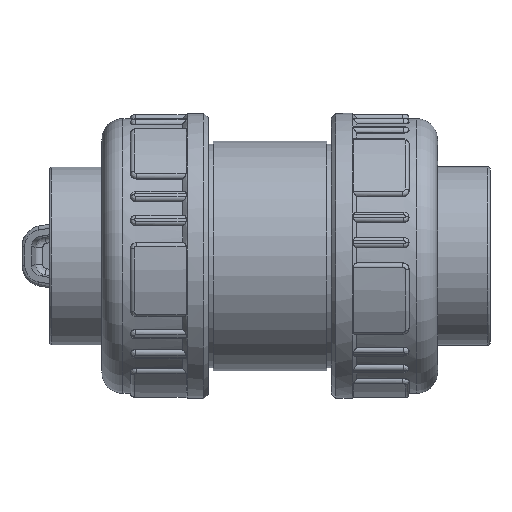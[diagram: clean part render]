
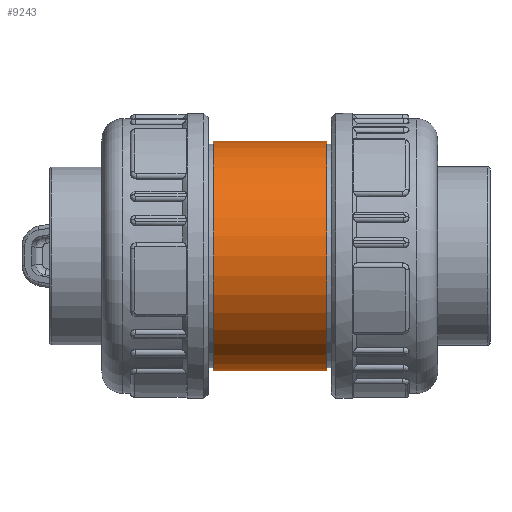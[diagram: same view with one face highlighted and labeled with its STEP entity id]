
A CAD part, left-side view. The second image highlights one B-rep face of the part: STEP entity #9243.
In plain terms, the highlighted cylindrical face has radius 27.35 mm (diameter 54.7 mm), a full revolution.
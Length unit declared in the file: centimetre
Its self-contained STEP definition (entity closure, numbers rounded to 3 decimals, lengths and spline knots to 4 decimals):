
#1569=B_SPLINE_CURVE_WITH_KNOTS('',3,(#66508,#66509,#66510,#66511,#66512,
#66513,#66514,#66515,#66516,#66517,#66518,#66519,#66520,#66521,#66522,#66523,
#66524,#66525,#66526,#66527,#66528,#66529,#66530,#66531,#66532,#66533,#66534,
#66535,#66536,#66537,#66538,#66539,#66540,#66541,#66542,#66543,#66544,#66545,
#66546,#66547,#66548,#66549,#66550,#66551,#66552,#66553,#66554,#66555,#66556,
#66557),.UNSPECIFIED.,.T.,.F.,(4,2,2,2,2,2,2,2,2,2,2,2,2,2,2,2,2,2,2,2,
2,2,2,2,4),(0.,0.2366,0.4732,0.9463,1.4187,
1.6549,1.891,2.1272,2.3634,2.8357,
3.3089,3.5455,3.7821,4.0186,4.2552,
4.7284,5.2007,5.4369,5.6731,5.9093,
6.1454,6.6178,7.0909,7.3275,7.5641),
 .UNSPECIFIED.);
#1791=FACE_BOUND('',#2865,.T.);
#1792=FACE_BOUND('',#2866,.T.);
#2309=FACE_OUTER_BOUND('',#2864,.T.);
#2864=EDGE_LOOP('',(#8031));
#2865=EDGE_LOOP('',(#8032));
#2866=EDGE_LOOP('',(#8033));
#3305=CIRCLE('',#10045,2.735);
#3306=CIRCLE('',#10046,2.735);
#4138=VERTEX_POINT('',#66505);
#4139=VERTEX_POINT('',#66507);
#4140=VERTEX_POINT('',#66558);
#5443=EDGE_CURVE('',#4138,#4138,#3305,.T.);
#5444=EDGE_CURVE('',#4139,#4139,#1569,.T.);
#5445=EDGE_CURVE('',#4140,#4140,#3306,.T.);
#8031=ORIENTED_EDGE('',*,*,#5443,.F.);
#8032=ORIENTED_EDGE('',*,*,#5444,.T.);
#8033=ORIENTED_EDGE('',*,*,#5445,.T.);
#8212=CYLINDRICAL_SURFACE('',#10044,2.735);
#9243=ADVANCED_FACE('',(#2309,#1791,#1792),#8212,.T.);
#10044=AXIS2_PLACEMENT_3D('',#66504,#12143,#12144);
#10045=AXIS2_PLACEMENT_3D('',#66506,#12145,#12146);
#10046=AXIS2_PLACEMENT_3D('',#66559,#12147,#12148);
#12143=DIRECTION('center_axis',(0.,-1.,0.));
#12144=DIRECTION('ref_axis',(-1.,0.,0.));
#12145=DIRECTION('center_axis',(0.,-1.,0.));
#12146=DIRECTION('ref_axis',(1.,0.,0.));
#12147=DIRECTION('center_axis',(0.,-1.,0.));
#12148=DIRECTION('ref_axis',(1.,0.,0.));
#66504=CARTESIAN_POINT('Origin',(0.,-0.005,
0.));
#66505=CARTESIAN_POINT('',(-2.735,-1.36,0.));
#66506=CARTESIAN_POINT('Origin',(0.,-1.36,0.));
#66507=CARTESIAN_POINT('',(2.4403,0.,-1.235));
#66508=CARTESIAN_POINT('Ctrl Pts',(2.4403,0.,
-1.235));
#66509=CARTESIAN_POINT('Ctrl Pts',(2.4403,-0.0789,
-1.235));
#66510=CARTESIAN_POINT('Ctrl Pts',(2.4442,-0.16,
-1.2273));
#66511=CARTESIAN_POINT('Ctrl Pts',(2.4599,-0.3205,
-1.1955));
#66512=CARTESIAN_POINT('Ctrl Pts',(2.4717,-0.3999,
-1.1713));
#66513=CARTESIAN_POINT('Ctrl Pts',(2.5153,-0.6275,
-1.0764));
#66514=CARTESIAN_POINT('Ctrl Pts',(2.5553,-0.7648,
-0.9818));
#66515=CARTESIAN_POINT('Ctrl Pts',(2.6283,-0.9816,
-0.765));
#66516=CARTESIAN_POINT('Ctrl Pts',(2.6665,-1.0763,-0.6276));
#66517=CARTESIAN_POINT('Ctrl Pts',(2.7067,-1.1714,-0.3998));
#66518=CARTESIAN_POINT('Ctrl Pts',(2.7174,-1.1955,-0.3203));
#66519=CARTESIAN_POINT('Ctrl Pts',(2.7315,-1.2274,-0.1598));
#66520=CARTESIAN_POINT('Ctrl Pts',(2.735,-1.235,-0.0787));
#66521=CARTESIAN_POINT('Ctrl Pts',(2.735,-1.235,0.0787));
#66522=CARTESIAN_POINT('Ctrl Pts',(2.7315,-1.2274,0.1598));
#66523=CARTESIAN_POINT('Ctrl Pts',(2.7174,-1.1955,0.3203));
#66524=CARTESIAN_POINT('Ctrl Pts',(2.7067,-1.1714,0.3998));
#66525=CARTESIAN_POINT('Ctrl Pts',(2.6665,-1.0763,0.6276));
#66526=CARTESIAN_POINT('Ctrl Pts',(2.6283,-0.9816,
0.765));
#66527=CARTESIAN_POINT('Ctrl Pts',(2.5553,-0.7648,
0.9818));
#66528=CARTESIAN_POINT('Ctrl Pts',(2.5153,-0.6275,
1.0764));
#66529=CARTESIAN_POINT('Ctrl Pts',(2.4717,-0.3999,
1.1713));
#66530=CARTESIAN_POINT('Ctrl Pts',(2.4599,-0.3205,
1.1955));
#66531=CARTESIAN_POINT('Ctrl Pts',(2.4442,-0.16,
1.2273));
#66532=CARTESIAN_POINT('Ctrl Pts',(2.4403,-0.0789,
1.235));
#66533=CARTESIAN_POINT('Ctrl Pts',(2.4403,0.0789,1.235));
#66534=CARTESIAN_POINT('Ctrl Pts',(2.4442,0.16,1.2273));
#66535=CARTESIAN_POINT('Ctrl Pts',(2.4599,0.3205,1.1955));
#66536=CARTESIAN_POINT('Ctrl Pts',(2.4717,0.3999,1.1713));
#66537=CARTESIAN_POINT('Ctrl Pts',(2.5153,0.6275,1.0764));
#66538=CARTESIAN_POINT('Ctrl Pts',(2.5553,0.7648,0.9818));
#66539=CARTESIAN_POINT('Ctrl Pts',(2.6283,0.9816,0.765));
#66540=CARTESIAN_POINT('Ctrl Pts',(2.6665,1.0763,0.6276));
#66541=CARTESIAN_POINT('Ctrl Pts',(2.7067,1.1714,0.3998));
#66542=CARTESIAN_POINT('Ctrl Pts',(2.7174,1.1955,0.3203));
#66543=CARTESIAN_POINT('Ctrl Pts',(2.7315,1.2274,0.1598));
#66544=CARTESIAN_POINT('Ctrl Pts',(2.735,1.235,0.0787));
#66545=CARTESIAN_POINT('Ctrl Pts',(2.735,1.235,-0.0787));
#66546=CARTESIAN_POINT('Ctrl Pts',(2.7315,1.2274,-0.1598));
#66547=CARTESIAN_POINT('Ctrl Pts',(2.7174,1.1955,-0.3203));
#66548=CARTESIAN_POINT('Ctrl Pts',(2.7067,1.1714,-0.3998));
#66549=CARTESIAN_POINT('Ctrl Pts',(2.6665,1.0763,-0.6276));
#66550=CARTESIAN_POINT('Ctrl Pts',(2.6283,0.9816,-0.765));
#66551=CARTESIAN_POINT('Ctrl Pts',(2.5553,0.7648,-0.9818));
#66552=CARTESIAN_POINT('Ctrl Pts',(2.5153,0.6275,-1.0764));
#66553=CARTESIAN_POINT('Ctrl Pts',(2.4717,0.3999,-1.1713));
#66554=CARTESIAN_POINT('Ctrl Pts',(2.4599,0.3205,-1.1955));
#66555=CARTESIAN_POINT('Ctrl Pts',(2.4442,0.16,-1.2273));
#66556=CARTESIAN_POINT('Ctrl Pts',(2.4403,0.0789,
-1.235));
#66557=CARTESIAN_POINT('Ctrl Pts',(2.4403,0.,
-1.235));
#66558=CARTESIAN_POINT('',(-2.735,1.35,0.));
#66559=CARTESIAN_POINT('Origin',(0.,1.35,0.));
